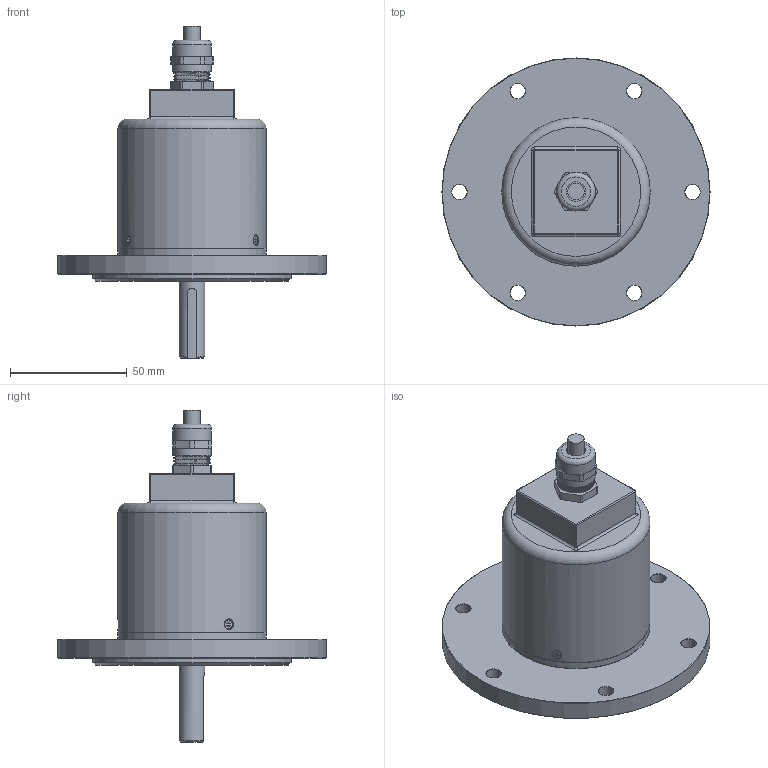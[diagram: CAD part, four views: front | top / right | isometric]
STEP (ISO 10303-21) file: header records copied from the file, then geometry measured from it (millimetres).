
FILE_DESCRIPTION(('FreeCAD Model'),'2;1');
FILE_NAME('Open CASCADE Shape Model','2026-08-04T14:55:48',(''),(''), 'Open CASCADE STEP processor 7.8','FreeCAD','Unknown');
FILE_SCHEMA(('AUTOMOTIVE_DESIGN { 1 0 10303 214 1 1 1 1 }'));
Length unit declared in the file: millimetre
Products named in the file (9): Assembly; 725 Lid Screw; 744 REO Body; 740 Series Bearing; 11mm Dia Shaft with Keyway for 744; Disc Hub; Disc Hub Grub Screw; Black Lid End PG9 Gland; PG9 Gland
Assembly tree (12 placements, depth 2):
  Assembly
    725 Lid Screw  x3
    744 REO Body
    740 Series Bearing  x2
    11mm Dia Shaft with Keyway for 744
    Disc Hub
    Disc Hub Grub Screw  x2
    Black Lid End PG9 Gland
    PG9 Gland
Bounding box: 115 x 115 x 142.4 mm (x, y, z)
Volume: 200986.7 mm3; surface area: 72717.2 mm2
Topology: 12 solids, 12 shells, 455 faces, 1005 edges, 604 vertices
Faces by surface type: plane 156, cylinder 122, bspline 86, torus 50, cone 35, sphere 4, revolution 2
Full cylindrical faces by diameter (mm): 1.45 x5, 1.85 x6, 2.1 x6, 2.35 x2, 2.5 x7, 2.85 x4, 3 x3, 3.3 x2, 3.8 x3, 6.5 x6, 7 x2, 7.87 x1, 8.5 x1, 9.525 x2, 11 x1, 12 x5, 14.038 x7, 15 x1, 16.45 x1, 16.5 x4, 16.6 x2, 23.8 x4, 25 x1, 28 x4, 54.86 x1, 58.93 x2, 59 x1, 63.5 x2, 85 x1, 115 x1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
Entity records: 30178 total; most frequent: CARTESIAN_POINT 21979, ORIENTED_EDGE 1678, DIRECTION 1509, EDGE_CURVE 839, AXIS2_PLACEMENT_3D 614, VERTEX_POINT 511, FACE_BOUND 458, EDGE_LOOP 458
